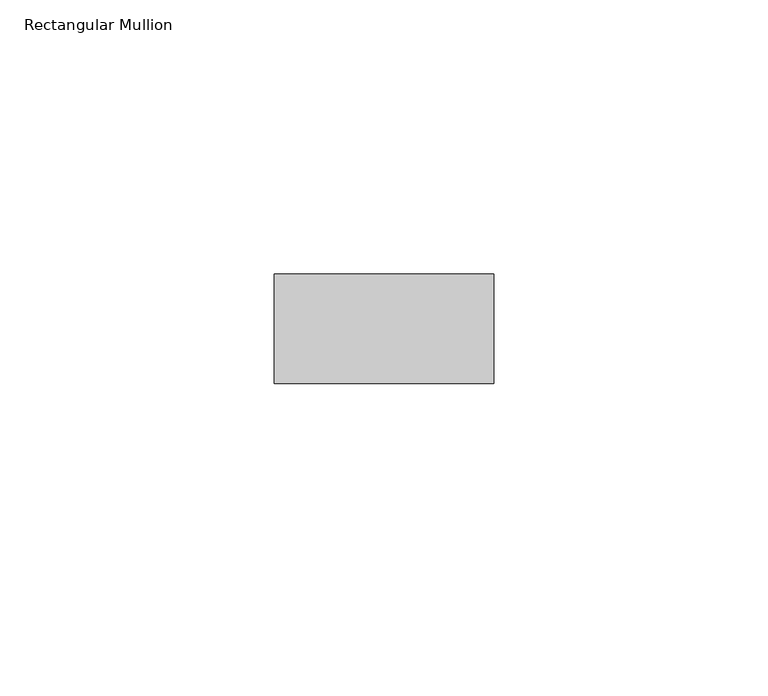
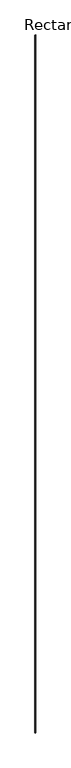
"""IFC4 building model written with IfcOpenShell, lengths in millimetres: member geometry, Rectangular Mullion : RIPA 4x2 cm."""

from ifc_helpers import new_model, si_unit, frame, origin, place, context, project, spatial, polyline, outline, extrude, source, transform, mapped, element, save


def rectangular_mullion_491340ea(model_context):
    return source(origin(), model_context, "Body", "SweptSolid", [
        extrude(outline(polyline([(20.0, 0.0), (20.0, -20.0), (-20.0, -20.0), (-20.0, 0.0), (20.0, 0.0)])), frame((0.0, 0.0, -39846.6885909), z_axis=(0.0, 0.0, 1.0), x_axis=(1.0, 0.0, 0.0)), (0.0, 0.0, 1.0), 39846.6885909),
    ])


if __name__ == "__main__":
    model = new_model("IFC4")
    model_context = context("Model", 3, world=origin())
    ifc_project = project(units=[si_unit("LENGTHUNIT", "METRE", prefix="MILLI")], contexts=[model_context])
    site = spatial("IfcSite", under=ifc_project)
    building = spatial("IfcBuilding", under=site)
    placement = place(None, origin())
    rectangular_mullion_shape = rectangular_mullion_491340ea(model_context)
    element("IfcMember", 1, ObjectType="Rectangular Mullion : RIPA 4x2 cm", at=placement, inside=building, context=model_context, shape_type="MappedRepresentation", body=[
        mapped(rectangular_mullion_shape, transform((0.0, 0.0, 0.0), x_axis=(1.0, 0.0, 0.0), y_axis=(0.0, 1.0, 0.0), z_axis=(0.0, 0.0, 1.0))),
    ])
    save(model, "model.ifc")
